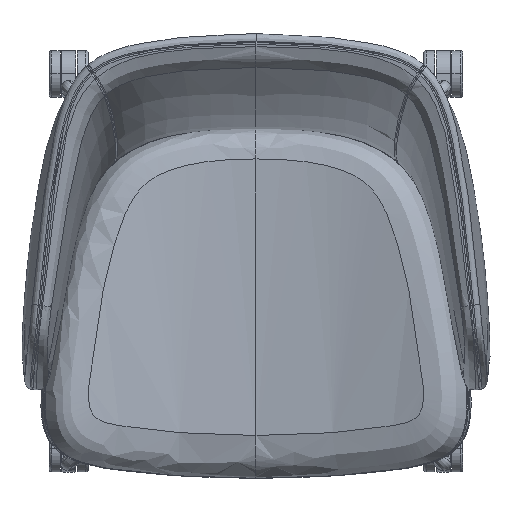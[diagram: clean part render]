
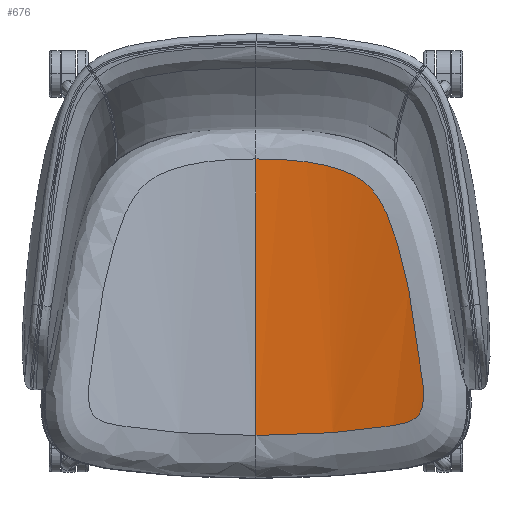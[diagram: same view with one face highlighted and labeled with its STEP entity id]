
A CAD part, top view. The second image highlights one B-rep face of the part: STEP entity #676.
In plain terms, the highlighted cylindrical face has radius 640 mm (diameter 1280 mm), a partial arc.
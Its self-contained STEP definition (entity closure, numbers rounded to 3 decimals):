
#248=B_SPLINE_CURVE_WITH_KNOTS('',1,(#40398,#40399),.UNSPECIFIED.,.F.,.F.,
(2,2),(85.522,440.522),.UNSPECIFIED.);
#249=B_SPLINE_CURVE_WITH_KNOTS('',3,(#40400,#40401,#40402,#40403,#40404,
#40405,#40406,#40407,#40408,#40409,#40410,#40411,#40412,#40413,#40414,#40415,
#40416,#40417,#40418,#40419,#40420,#40421,#40422,#40423,#40424,#40425,#40426,
#40427,#40428,#40429,#40430,#40431,#40432,#40433,#40434,#40435,#40436,#40437,
#40438,#40439,#40440,#40441,#40442,#40443,#40444,#40445,#40446,#40447,#40448,
#40449,#40450,#40451,#40452,#40453,#40454,#40455,#40456,#40457,#40458,#40459,
#40460,#40461,#40462,#40463,#40464),.UNSPECIFIED.,.F.,.F.,(4,2,2,2,2,1,
1,1,2,2,2,2,2,2,1,1,1,2,2,2,2,2,2,1,1,1,2,2,1,1,1,2,2,2,1,1,1,2,2,4),(0.,
104.587,156.88,183.027,196.1,202.637,
209.173,215.71,229.003,238.918,248.832,
258.747,268.662,278.577,283.534,288.491,
293.449,302.826,317.162,345.832,403.172,
460.512,489.182,503.517,517.852,532.187,
552.207,569.385,578.515,586.562,594.609,
602.656,618.75,634.843,642.89,650.937,
658.984,679.714,708.491,766.045),
 .UNSPECIFIED.);
#425=CYLINDRICAL_SURFACE('',#3686,640.);
#676=ADVANCED_FACE('',(#930),#425,.T.);
#930=FACE_OUTER_BOUND('',#1185,.T.);
#1185=EDGE_LOOP('',(#2153,#2154));
#2153=ORIENTED_EDGE('',*,*,#2726,.T.);
#2154=ORIENTED_EDGE('',*,*,#2725,.F.);
#2725=EDGE_CURVE('',#3362,#3363,#248,.T.);
#2726=EDGE_CURVE('',#3362,#3363,#249,.T.);
#3362=VERTEX_POINT('',#40392);
#3363=VERTEX_POINT('',#40393);
#3686=AXIS2_PLACEMENT_3D('',#39492,#3779,$);
#3779=DIRECTION('',(0.,-1.,0.));
#39492=CARTESIAN_POINT('',(0.,-31.435,1100.));
#40392=CARTESIAN_POINT('',(0.,-205.851,460.));
#40393=CARTESIAN_POINT('',(0.,149.149,460.));
#40398=CARTESIAN_POINT('',(0.,-205.851,460.));
#40399=CARTESIAN_POINT('',(0.,149.149,460.));
#40400=CARTESIAN_POINT('',(0.,-205.851,460.));
#40401=CARTESIAN_POINT('',(32.595,-205.851,459.998));
#40402=CARTESIAN_POINT('',(65.191,-204.707,462.498));
#40403=CARTESIAN_POINT('',(113.393,-201.245,469.916));
#40404=CARTESIAN_POINT('',(129.348,-199.803,472.998));
#40405=CARTESIAN_POINT('',(152.995,-196.948,478.504));
#40406=CARTESIAN_POINT('',(160.828,-195.874,480.485));
#40407=CARTESIAN_POINT('',(172.477,-193.946,483.666));
#40408=CARTESIAN_POINT('',(176.325,-193.264,484.756));
#40409=CARTESIAN_POINT('',(182.126,-192.091,486.459));
#40410=CARTESIAN_POINT('',(185.728,-191.337,487.529));
#40411=CARTESIAN_POINT('',(192.209,-189.573,489.538));
#40412=CARTESIAN_POINT('',(195.735,-188.386,490.661));
#40413=CARTESIAN_POINT('',(199.266,-186.96,491.807));
#40414=CARTESIAN_POINT('',(202.779,-184.998,492.972));
#40415=CARTESIAN_POINT('',(204.261,-184.016,493.469));
#40416=CARTESIAN_POINT('',(206.947,-181.74,494.381));
#40417=CARTESIAN_POINT('',(208.168,-180.437,494.8));
#40418=CARTESIAN_POINT('',(210.246,-177.534,495.519));
#40419=CARTESIAN_POINT('',(211.107,-175.946,495.819));
#40420=CARTESIAN_POINT('',(212.491,-172.616,496.305));
#40421=CARTESIAN_POINT('',(213.019,-170.876,496.491));
#40422=CARTESIAN_POINT('',(213.834,-167.346,496.779));
#40423=CARTESIAN_POINT('',(214.124,-165.534,496.883));
#40424=CARTESIAN_POINT('',(214.453,-162.865,496.999));
#40425=CARTESIAN_POINT('',(214.64,-160.854,497.066));
#40426=CARTESIAN_POINT('',(214.8,-158.871,497.123));
#40427=CARTESIAN_POINT('',(215.033,-151.876,497.206));
#40428=CARTESIAN_POINT('',(214.909,-147.514,497.162));
#40429=CARTESIAN_POINT('',(214.619,-139.821,497.058));
#40430=CARTESIAN_POINT('',(214.314,-135.233,496.95));
#40431=CARTESIAN_POINT('',(213.152,-121.424,496.538));
#40432=CARTESIAN_POINT('',(212.076,-112.257,496.158));
#40433=CARTESIAN_POINT('',(208.37,-84.822,494.865));
#40434=CARTESIAN_POINT('',(205.301,-66.627,493.811));
#40435=CARTESIAN_POINT('',(198.557,-30.368,491.57));
#40436=CARTESIAN_POINT('',(194.856,-12.302,490.369));
#40437=CARTESIAN_POINT('',(188.523,14.609,488.392));
#40438=CARTESIAN_POINT('',(186.28,23.534,487.704));
#40439=CARTESIAN_POINT('',(182.602,36.878,486.601));
#40440=CARTESIAN_POINT('',(180.108,45.581,485.86));
#40441=CARTESIAN_POINT('',(175.69,59.26,484.582));
#40442=CARTESIAN_POINT('',(171.082,71.736,483.283));
#40443=CARTESIAN_POINT('',(167.133,80.889,482.203));
#40444=CARTESIAN_POINT('',(162.426,90.325,480.95));
#40445=CARTESIAN_POINT('',(160.048,94.606,480.329));
#40446=CARTESIAN_POINT('',(155.992,100.878,479.3));
#40447=CARTESIAN_POINT('',(153.227,104.855,478.607));
#40448=CARTESIAN_POINT('',(148.585,110.435,477.481));
#40449=CARTESIAN_POINT('',(144.078,115.015,476.422));
#40450=CARTESIAN_POINT('',(140.78,117.901,475.673));
#40451=CARTESIAN_POINT('',(135.703,121.987,474.543));
#40452=CARTESIAN_POINT('',(132.099,124.439,473.77));
#40453=CARTESIAN_POINT('',(124.593,128.815,472.233));
#40454=CARTESIAN_POINT('',(120.672,130.726,471.466));
#40455=CARTESIAN_POINT('',(114.663,133.23,470.352));
#40456=CARTESIAN_POINT('',(110.528,134.808,469.607));
#40457=CARTESIAN_POINT('',(104.58,136.779,468.59));
#40458=CARTESIAN_POINT('',(93.571,139.98,466.83));
#40459=CARTESIAN_POINT('',(85.134,141.89,465.658));
#40460=CARTESIAN_POINT('',(70.3,144.746,463.813));
#40461=CARTESIAN_POINT('',(61.607,146.002,462.912));
#40462=CARTESIAN_POINT('',(35.337,148.719,460.734));
#40463=CARTESIAN_POINT('',(17.656,149.155,459.999));
#40464=CARTESIAN_POINT('',(0.,149.149,460.));
